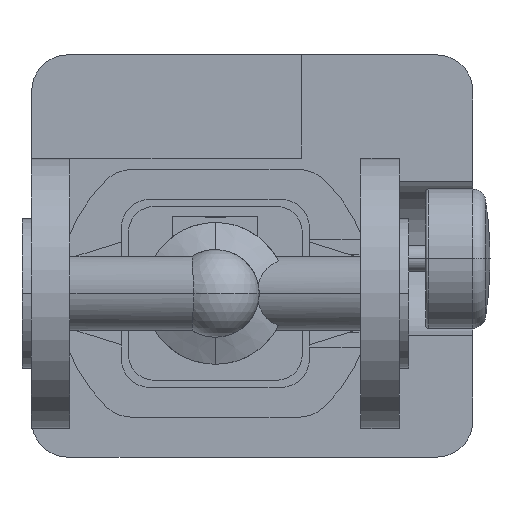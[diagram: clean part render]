
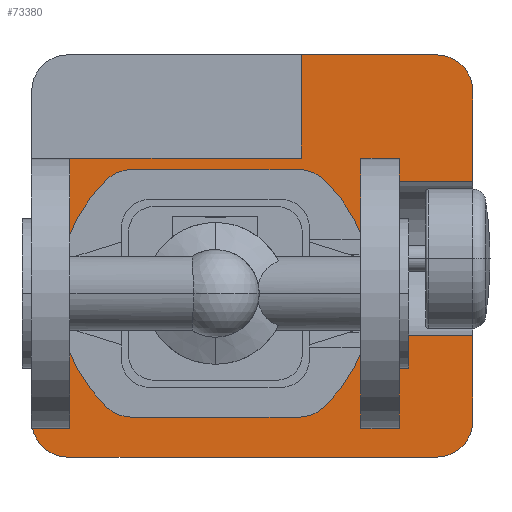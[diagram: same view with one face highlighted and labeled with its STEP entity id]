
A CAD part, front view. The second image highlights one B-rep face of the part: STEP entity #73380.
In plain terms, the highlighted planar face has unit normal (0, -1, 0).
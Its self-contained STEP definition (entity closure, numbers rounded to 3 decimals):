
#69640=CARTESIAN_POINT('',(160.8,490.,92.5));
#69650=VERTEX_POINT('',#69640);
#69680=CARTESIAN_POINT('',(17.8,490.,92.5));
#69690=DIRECTION('',(1.,0.,0.));
#69700=VECTOR('',#69690,1.);
#69710=LINE('',#69680,#69700);
#69720=CARTESIAN_POINT('',(108.3,490.,92.5));
#69730=VERTEX_POINT('',#69720);
#69740=EDGE_CURVE('',#69730,#69650,#69710,.T.);
#70050=CARTESIAN_POINT('',(3.8,490.,-49.5));
#70060=DIRECTION('',(0.,0.,1.));
#70070=VECTOR('',#70060,1.);
#70080=LINE('',#70050,#70070);
#70090=CARTESIAN_POINT('',(3.8,490.,-49.5));
#70100=VERTEX_POINT('',#70090);
#70110=CARTESIAN_POINT('',(3.8,490.,52.5));
#70120=VERTEX_POINT('',#70110);
#70130=EDGE_CURVE('',#70100,#70120,#70080,.T.);
#70690=CARTESIAN_POINT('',(17.8,490.,-49.5));
#70700=DIRECTION('',(0.,1.,0.));
#70710=DIRECTION('',(0.,0.,-1.));
#70720=AXIS2_PLACEMENT_3D('',#70690,#70700,#70710);
#70730=CIRCLE('',#70720,14.);
#70740=CARTESIAN_POINT('',(17.8,490.,-63.5));
#70750=VERTEX_POINT('',#70740);
#70760=EDGE_CURVE('',#70750,#70100,#70730,.T.);
#71120=CARTESIAN_POINT('',(160.8,490.,-63.5));
#71130=VERTEX_POINT('',#71120);
#71180=CARTESIAN_POINT('',(160.8,490.,-49.5));
#71190=DIRECTION('',(0.,1.,0.));
#71200=DIRECTION('',(1.,0.,0.));
#71210=AXIS2_PLACEMENT_3D('',#71180,#71190,#71200);
#71220=CIRCLE('',#71210,14.);
#71230=CARTESIAN_POINT('',(174.8,490.,-49.5));
#71240=VERTEX_POINT('',#71230);
#71250=EDGE_CURVE('',#71240,#71130,#71220,.T.);
#71520=CARTESIAN_POINT('',(75.,490.,0.));
#71530=DIRECTION('',(0.,1.,0.));
#71540=DIRECTION('',(0.,0.,1.));
#71550=AXIS2_PLACEMENT_3D('',#71520,#71530,#71540);
#71560=PLANE('',#71550);
#71570=CARTESIAN_POINT('',(142.8,490.,0.));
#71580=DIRECTION('',(0.,0.,1.));
#71590=VECTOR('',#71580,1.);
#71600=LINE('',#71570,#71590);
#71610=CARTESIAN_POINT('',(142.8,490.,-16.5));
#71620=VERTEX_POINT('',#71610);
#71630=CARTESIAN_POINT('',(142.8,490.,43.5));
#71640=VERTEX_POINT('',#71630);
#71650=EDGE_CURVE('',#71620,#71640,#71600,.T.);
#71660=ORIENTED_EDGE('',*,*,#71650,.T.);
#71670=CARTESIAN_POINT('',(124.9,490.,-16.5));
#71680=DIRECTION('',(-1.,0.,0.));
#71690=VECTOR('',#71680,1.);
#71700=LINE('',#71670,#71690);
#71710=CARTESIAN_POINT('',(174.8,490.,-16.5));
#71720=VERTEX_POINT('',#71710);
#71730=EDGE_CURVE('',#71720,#71620,#71700,.T.);
#71740=ORIENTED_EDGE('',*,*,#71730,.T.);
#71750=CARTESIAN_POINT('',(174.8,490.,78.5));
#71760=DIRECTION('',(0.,0.,-1.));
#71770=VECTOR('',#71760,1.);
#71780=LINE('',#71750,#71770);
#71790=EDGE_CURVE('',#71720,#71240,#71780,.T.);
#71800=ORIENTED_EDGE('',*,*,#71790,.F.);
#71810=ORIENTED_EDGE('',*,*,#71250,.F.);
#71820=CARTESIAN_POINT('',(160.8,490.,-63.5));
#71830=DIRECTION('',(-1.,0.,0.));
#71840=VECTOR('',#71830,1.);
#71850=LINE('',#71820,#71840);
#71860=EDGE_CURVE('',#71130,#70750,#71850,.T.);
#71870=ORIENTED_EDGE('',*,*,#71860,.F.);
#71880=ORIENTED_EDGE('',*,*,#70760,.F.);
#71890=ORIENTED_EDGE('',*,*,#70130,.F.);
#71900=CARTESIAN_POINT('',(38.9,490.,52.5));
#71910=DIRECTION('',(-1.,0.,0.));
#71920=VECTOR('',#71910,1.);
#71930=LINE('',#71900,#71920);
#71940=CARTESIAN_POINT('',(108.3,490.,52.5));
#71950=VERTEX_POINT('',#71940);
#71960=EDGE_CURVE('',#71950,#70120,#71930,.T.);
#71970=ORIENTED_EDGE('',*,*,#71960,.T.);
#71980=CARTESIAN_POINT('',(108.3,490.,26.25));
#71990=DIRECTION('',(0.,0.,-1.));
#72000=VECTOR('',#71990,1.);
#72010=LINE('',#71980,#72000);
#72020=EDGE_CURVE('',#69730,#71950,#72010,.T.);
#72030=ORIENTED_EDGE('',*,*,#72020,.T.);
#72040=ORIENTED_EDGE('',*,*,#69740,.F.);
#72050=CARTESIAN_POINT('',(160.8,490.,78.5));
#72060=DIRECTION('',(0.,1.,0.));
#72070=DIRECTION('',(0.,0.,1.));
#72080=AXIS2_PLACEMENT_3D('',#72050,#72060,#72070);
#72090=CIRCLE('',#72080,14.);
#72100=CARTESIAN_POINT('',(174.8,490.,78.5));
#72110=VERTEX_POINT('',#72100);
#72120=EDGE_CURVE('',#69650,#72110,#72090,.T.);
#72130=ORIENTED_EDGE('',*,*,#72120,.F.);
#72140=CARTESIAN_POINT('',(174.8,490.,78.5));
#72150=DIRECTION('',(0.,0.,-1.));
#72160=VECTOR('',#72150,1.);
#72170=LINE('',#72140,#72160);
#72180=CARTESIAN_POINT('',(174.8,490.,43.5));
#72190=VERTEX_POINT('',#72180);
#72200=EDGE_CURVE('',#72110,#72190,#72170,.T.);
#72210=ORIENTED_EDGE('',*,*,#72200,.F.);
#72220=CARTESIAN_POINT('',(124.9,490.,43.5));
#72230=DIRECTION('',(1.,0.,0.));
#72240=VECTOR('',#72230,1.);
#72250=LINE('',#72220,#72240);
#72260=EDGE_CURVE('',#71640,#72190,#72250,.T.);
#72270=ORIENTED_EDGE('',*,*,#72260,.T.);
#72280=EDGE_LOOP('',(#72270,#72210,#72130,#72040,#72030,#71970,#71890,
#71880,#71870,#71810,#71800,#71740,#71660));
#72290=FACE_OUTER_BOUND('',#72280,.T.);
#72300=CARTESIAN_POINT('',(75.,490.,0.));
#72310=DIRECTION('',(0.,1.,0.));
#72320=DIRECTION('',(0.69,0.,0.723));
#72330=AXIS2_PLACEMENT_3D('',#72300,#72310,#72320);
#72340=CIRCLE('',#72330,61.);
#72350=CARTESIAN_POINT('',(117.116,490.,44.128));
#72360=VERTEX_POINT('',#72350);
#72370=CARTESIAN_POINT('',(134.96,490.,11.216));
#72380=VERTEX_POINT('',#72370);
#72390=EDGE_CURVE('',#72360,#72380,#72340,.T.);
#72400=ORIENTED_EDGE('',*,*,#72390,.T.);
#72410=CARTESIAN_POINT('',(107.45,490.,34.));
#72420=DIRECTION('',(0.,1.,0.));
#72430=DIRECTION('',(0.,0.,1.));
#72440=AXIS2_PLACEMENT_3D('',#72410,#72420,#72430);
#72450=CIRCLE('',#72440,14.);
#72460=CARTESIAN_POINT('',(107.45,490.,48.));
#72470=VERTEX_POINT('',#72460);
#72480=EDGE_CURVE('',#72470,#72360,#72450,.T.);
#72490=ORIENTED_EDGE('',*,*,#72480,.T.);
#72500=CARTESIAN_POINT('',(58.775,490.,48.));
#72510=DIRECTION('',(1.,0.,0.));
#72520=VECTOR('',#72510,1.);
#72530=LINE('',#72500,#72520);
#72540=CARTESIAN_POINT('',(42.55,490.,48.));
#72550=VERTEX_POINT('',#72540);
#72560=EDGE_CURVE('',#72550,#72470,#72530,.T.);
#72570=ORIENTED_EDGE('',*,*,#72560,.T.);
#72580=CARTESIAN_POINT('',(42.55,490.,34.));
#72590=DIRECTION('',(0.,1.,0.));
#72600=DIRECTION('',(-0.69,0.,0.723));
#72610=AXIS2_PLACEMENT_3D('',#72580,#72590,#72600);
#72620=CIRCLE('',#72610,14.);
#72630=CARTESIAN_POINT('',(32.884,490.,44.128));
#72640=VERTEX_POINT('',#72630);
#72650=EDGE_CURVE('',#72640,#72550,#72620,.T.);
#72660=ORIENTED_EDGE('',*,*,#72650,.T.);
#72670=CARTESIAN_POINT('',(75.,490.,0.));
#72680=DIRECTION('',(0.,1.,0.));
#72690=DIRECTION('',(-0.69,0.,-0.723));
#72700=AXIS2_PLACEMENT_3D('',#72670,#72680,#72690);
#72710=CIRCLE('',#72700,61.);
#72720=CARTESIAN_POINT('',(15.04,490.,11.216));
#72730=VERTEX_POINT('',#72720);
#72740=EDGE_CURVE('',#72730,#72640,#72710,.T.);
#72750=ORIENTED_EDGE('',*,*,#72740,.T.);
#72760=CARTESIAN_POINT('',(25.,490.,0.));
#72770=DIRECTION('',(0.,1.,0.));
#72780=DIRECTION('',(0.,0.,-1.));
#72790=AXIS2_PLACEMENT_3D('',#72760,#72770,#72780);
#72800=CIRCLE('',#72790,15.);
#72810=CARTESIAN_POINT('',(15.04,490.,-11.216));
#72820=VERTEX_POINT('',#72810);
#72830=EDGE_CURVE('',#72820,#72730,#72800,.T.);
#72840=ORIENTED_EDGE('',*,*,#72830,.T.);
#72850=CARTESIAN_POINT('',(75.,490.,0.));
#72860=DIRECTION('',(0.,1.,0.));
#72870=DIRECTION('',(-0.69,0.,-0.723));
#72880=AXIS2_PLACEMENT_3D('',#72850,#72860,#72870);
#72890=CIRCLE('',#72880,61.);
#72900=CARTESIAN_POINT('',(32.884,490.,-44.128));
#72910=VERTEX_POINT('',#72900);
#72920=EDGE_CURVE('',#72910,#72820,#72890,.T.);
#72930=ORIENTED_EDGE('',*,*,#72920,.T.);
#72940=CARTESIAN_POINT('',(42.55,490.,-34.));
#72950=DIRECTION('',(0.,1.,0.));
#72960=DIRECTION('',(0.,0.,-1.));
#72970=AXIS2_PLACEMENT_3D('',#72940,#72950,#72960);
#72980=CIRCLE('',#72970,14.);
#72990=CARTESIAN_POINT('',(42.55,490.,-48.));
#73000=VERTEX_POINT('',#72990);
#73010=EDGE_CURVE('',#73000,#72910,#72980,.T.);
#73020=ORIENTED_EDGE('',*,*,#73010,.T.);
#73030=CARTESIAN_POINT('',(91.225,490.,-48.));
#73040=DIRECTION('',(-1.,0.,0.));
#73050=VECTOR('',#73040,1.);
#73060=LINE('',#73030,#73050);
#73070=CARTESIAN_POINT('',(107.45,490.,-48.));
#73080=VERTEX_POINT('',#73070);
#73090=EDGE_CURVE('',#73080,#73000,#73060,.T.);
#73100=ORIENTED_EDGE('',*,*,#73090,.T.);
#73110=CARTESIAN_POINT('',(107.45,490.,-34.));
#73120=DIRECTION('',(0.,1.,0.));
#73130=DIRECTION('',(0.69,0.,-0.723));
#73140=AXIS2_PLACEMENT_3D('',#73110,#73120,#73130);
#73150=CIRCLE('',#73140,14.);
#73160=CARTESIAN_POINT('',(117.116,490.,-44.128));
#73170=VERTEX_POINT('',#73160);
#73180=EDGE_CURVE('',#73170,#73080,#73150,.T.);
#73190=ORIENTED_EDGE('',*,*,#73180,.T.);
#73200=CARTESIAN_POINT('',(75.,490.,0.));
#73210=DIRECTION('',(0.,1.,0.));
#73220=DIRECTION('',(0.69,0.,0.723));
#73230=AXIS2_PLACEMENT_3D('',#73200,#73210,#73220);
#73240=CIRCLE('',#73230,61.);
#73250=CARTESIAN_POINT('',(134.96,490.,-11.216));
#73260=VERTEX_POINT('',#73250);
#73270=EDGE_CURVE('',#73260,#73170,#73240,.T.);
#73280=ORIENTED_EDGE('',*,*,#73270,.T.);
#73290=CARTESIAN_POINT('',(125.,490.,0.));
#73300=DIRECTION('',(0.,1.,0.));
#73310=DIRECTION('',(0.,0.,1.));
#73320=AXIS2_PLACEMENT_3D('',#73290,#73300,#73310);
#73330=CIRCLE('',#73320,15.);
#73340=EDGE_CURVE('',#72380,#73260,#73330,.T.);
#73350=ORIENTED_EDGE('',*,*,#73340,.T.);
#73360=EDGE_LOOP('',(#73350,#73280,#73190,#73100,#73020,#72930,#72840,
#72750,#72660,#72570,#72490,#72400));
#73370=FACE_BOUND('',#73360,.T.);
#73380=ADVANCED_FACE('',(#72290,#73370),#71560,.F.);
